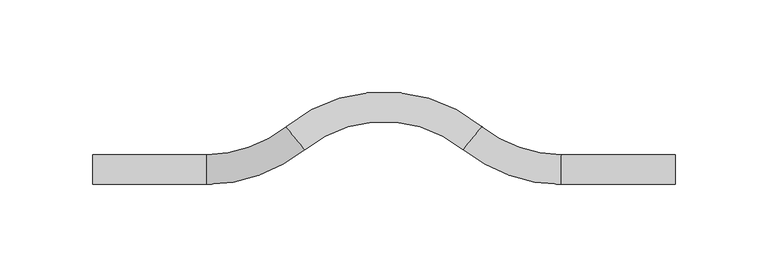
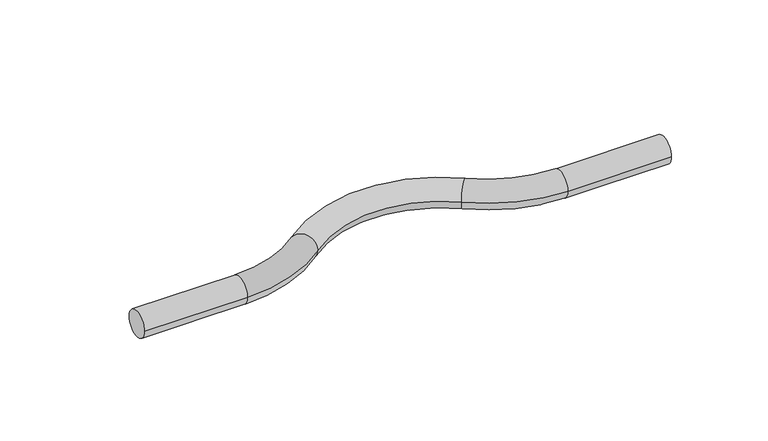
"""IFC4 building model written with IfcOpenShell, lengths in millimetres: pipe fitting geometry, KAN-therm PP mijanka : KAN-therm PP mijanka."""

from ifc_helpers import new_model, si_unit, point, frame, origin, place, context, project, spatial, circle_curve, ellipse_curve, trimmed, source, transform, mapped, element, save
from ifc_brep_helpers import plane_surface, cylinder_surface, revolved_surface, advanced_brep


def pipe_fitting_89126435(model_context):
    return source(origin(), model_context, "Body", "AdvancedBrep", [
        advanced_brep(
        [(157.5, 8.0, 0.0), (157.5, -8.0, 0.0), (95.8123165, 8.0, 0.0), (95.8123165, -8.0, 0.0), (42.8634048, 10.7894737, 0.0), (52.9489118, 23.2105263, 0.0), (-42.8634048, 10.7894737, 0.0), (-52.9489118, 23.2105263, 0.0), (-95.8123165, -8.0, 0.0), (-95.8123165, 8.0, 0.0), (-157.5, 8.0, 0.0), (-157.5, -8.0, 0.0)],
        [
            (0, 1, circle_curve(frame((157.5, 0.0, 0.0), z_axis=(1.0, 0.0, 0.0), x_axis=(0.0, -1.0, 0.0)), 8.0)),
            (1, 0, circle_curve(frame((157.5, 0.0, 0.0), z_axis=(1.0, 0.0, 0.0), x_axis=(0.0, -1.0, 0.0)), 8.0)),
            (0, 2),
            (2, 3, circle_curve(frame((95.8123165, 0.0, 0.0), z_axis=(1.0, 0.0, 0.0), x_axis=(0.0, -1.0, 0.0)), 8.0)),
            (3, 1),
            (3, 2, circle_curve(frame((95.8123165, 0.0, 0.0), z_axis=(1.0, 0.0, 0.0), x_axis=(0.0, -1.0, 0.0)), 8.0)),
            (4, 3, circle_curve(frame((95.8123165, 76.0, 0.0), z_axis=(0.0, 0.0, 1.0), x_axis=(0.0, -1.0, 0.0)), 84.0)),
            (2, 5, circle_curve(frame((95.8123165, 76.0, 0.0), z_axis=(0.0, 0.0, -1.0), x_axis=(0.0, -1.0, 0.0)), 68.0)),
            (5, 4, circle_curve(frame((47.9061583, 17.0, 0.0), z_axis=(0.7763157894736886, -0.6303441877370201, 0.0), x_axis=(-0.6303441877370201, -0.7763157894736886, 0.0)), 8.0)),
            (4, 5, circle_curve(frame((47.9061583, 17.0, 0.0), z_axis=(0.7763157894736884, -0.6303441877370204, 0.0), x_axis=(-0.6303441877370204, -0.7763157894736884, 0.0)), 8.0)),
            (6, 4, circle_curve(frame((0.0, -42.0, 0.0), z_axis=(0.0, 0.0, -1.0), x_axis=(0.6303441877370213, 0.7763157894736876, 0.0)), 68.0)),
            (5, 7, circle_curve(frame((0.0, -42.0, 0.0), z_axis=(0.0, 0.0, 1.0), x_axis=(0.6303441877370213, 0.7763157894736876, 0.0)), 84.0)),
            (7, 6, circle_curve(frame((-47.9061583, 17.0, 0.0), z_axis=(0.7763157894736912, 0.6303441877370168, 0.0), x_axis=(0.6303441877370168, -0.7763157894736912, 0.0)), 8.0)),
            (6, 7, circle_curve(frame((-47.9061583, 17.0, 0.0), z_axis=(0.7763157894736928, 0.6303441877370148, 0.0), x_axis=(0.6303441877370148, -0.7763157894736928, 0.0)), 8.0)),
            (8, 6, circle_curve(frame((-95.8123165, 76.0, 0.0), z_axis=(0.0, 0.0, 1.0), x_axis=(0.6303441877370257, -0.776315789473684, 0.0)), 84.0)),
            (7, 9, circle_curve(frame((-95.8123165, 76.0, 0.0), z_axis=(0.0, 0.0, -1.0), x_axis=(0.6303441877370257, -0.776315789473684, 0.0)), 68.0)),
            (9, 8, circle_curve(frame((-95.8123165, 0.0, 0.0), z_axis=(1.0, 0.0, 0.0), x_axis=(0.0, -1.0, 0.0)), 8.0)),
            (8, 9, circle_curve(frame((-95.8123165, 0.0, 0.0), z_axis=(0.9999999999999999, 0.0, 0.0), x_axis=(0.0, -0.9999999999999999, 0.0)), 8.0)),
            (10, 11, circle_curve(frame((-157.5, 0.0, 0.0), z_axis=(-1.0, 0.0, 0.0), x_axis=(0.0, -1.0, 0.0)), 8.0)),
            (11, 10, circle_curve(frame((-157.5, 0.0, 0.0), z_axis=(-1.0, 0.0, 0.0), x_axis=(0.0, -1.0, 0.0)), 8.0)),
            (9, 10),
            (11, 8),
        ],
        [
            plane_surface(frame((157.5, 0.0, 0.0), z_axis=(1.0, 0.0, 0.0), x_axis=(0.0, 0.0, 1.0))),
            cylinder_surface(frame((157.5, 0.0, 0.0), z_axis=(1.0, 0.0, 0.0), x_axis=(0.0, -1.0, 0.0)), 8.0),
            revolved_surface(trimmed(ellipse_curve(frame((95.8123165, 0.0, 0.0), z_axis=(1.0, 0.0, 0.0), x_axis=(0.0, -1.0, 0.0)), 8.0, 8.0), [point((95.8123165, 8.0, 0.0))], [point((95.8123165, -8.0, 0.0))], True, "CARTESIAN"), (95.8123165, 76.0, 0.0), (0.0, 0.0, -1.0)),
            revolved_surface(trimmed(ellipse_curve(frame((95.8123165, 0.0, 0.0), z_axis=(1.0, 0.0, 0.0), x_axis=(0.0, -1.0, 0.0)), 8.0, 8.0), [point((95.8123165, -8.0, 0.0))], [point((95.8123165, 8.0, 0.0))], True, "CARTESIAN"), (95.8123165, 76.0, 0.0), (0.0, 0.0, -1.0)),
            revolved_surface(trimmed(ellipse_curve(frame((47.9061583, 17.0, 0.0), z_axis=(0.7763157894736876, -0.6303441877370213, 0.0), x_axis=(-0.6303441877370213, -0.7763157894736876, 0.0)), 8.0, 8.0), [point((52.9489118, 23.2105263, 0.0))], [point((42.8634048, 10.7894737, 0.0))], True, "CARTESIAN"), (0.0, -42.0, 0.0), (0.0, 0.0, 1.0)),
            revolved_surface(trimmed(ellipse_curve(frame((47.9061583, 17.0, 0.0), z_axis=(0.7763157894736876, -0.6303441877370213, 0.0), x_axis=(-0.6303441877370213, -0.7763157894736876, 0.0)), 8.0, 8.0), [point((42.8634048, 10.7894737, 0.0))], [point((52.9489118, 23.2105263, 0.0))], True, "CARTESIAN"), (0.0, -42.0, 0.0), (0.0, 0.0, 1.0)),
            revolved_surface(trimmed(ellipse_curve(frame((-47.9061583, 17.0, 0.0), z_axis=(0.776315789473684, 0.6303441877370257, 0.0), x_axis=(0.6303441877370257, -0.776315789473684, 0.0)), 8.0, 8.0), [point((-52.9489118, 23.2105263, 0.0))], [point((-42.8634048, 10.7894737, 0.0))], True, "CARTESIAN"), (-95.8123165, 76.0, 0.0), (0.0, 0.0, -1.0)),
            revolved_surface(trimmed(ellipse_curve(frame((-47.9061583, 17.0, 0.0), z_axis=(0.776315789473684, 0.6303441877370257, 0.0), x_axis=(0.6303441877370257, -0.776315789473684, 0.0)), 8.0, 8.0), [point((-42.8634048, 10.7894737, 0.0))], [point((-52.9489118, 23.2105263, 0.0))], True, "CARTESIAN"), (-95.8123165, 76.0, 0.0), (0.0, 0.0, -1.0)),
            plane_surface(frame((-157.5, 0.0, 0.0), z_axis=(-1.0, 0.0, 0.0), x_axis=(0.0, 0.0, 1.0))),
            cylinder_surface(frame((-95.8123165, 0.0, 0.0), z_axis=(1.0, 0.0, 0.0), x_axis=(0.0, -1.0, 0.0)), 8.0),
        ],
        [
            (0, [[1, 2]]),
            (1, [[-1, 3, 4, 5]]),
            (1, [[-2, -5, 6, -3]]),
            (2, [[7, -4, 8, 9]]),
            (3, [[-8, -6, -7, 10]]),
            (4, [[11, -9, 12, 13]]),
            (5, [[-12, -10, -11, 14]]),
            (6, [[15, -13, 16, 17]]),
            (7, [[-16, -14, -15, 18]]),
            (8, [[19, 20]]),
            (9, [[-17, 21, -20, 22]]),
            (9, [[-18, -22, -19, -21]]),
        ],
    ),
    ])


if __name__ == "__main__":
    model = new_model("IFC4")
    model_context = context("Model", 3, world=origin())
    ifc_project = project(units=[si_unit("LENGTHUNIT", "METRE", prefix="MILLI")], contexts=[model_context])
    site = spatial("IfcSite", under=ifc_project)
    building = spatial("IfcBuilding", under=site)
    placement = place(None, origin())
    pipe_fitting_shape = pipe_fitting_89126435(model_context)
    element("IfcPipeFitting", 1, ObjectType="KAN-therm PP mijanka : KAN-therm PP mijanka", at=placement, inside=building, context=model_context, shape_type="MappedRepresentation", body=[
        mapped(pipe_fitting_shape, transform((0.0, 0.0, 0.0), x_axis=(1.0, 0.0, 0.0), y_axis=(0.0, 1.0, 0.0), z_axis=(0.0, 0.0, 1.0))),
    ])
    save(model, "model.ifc")
